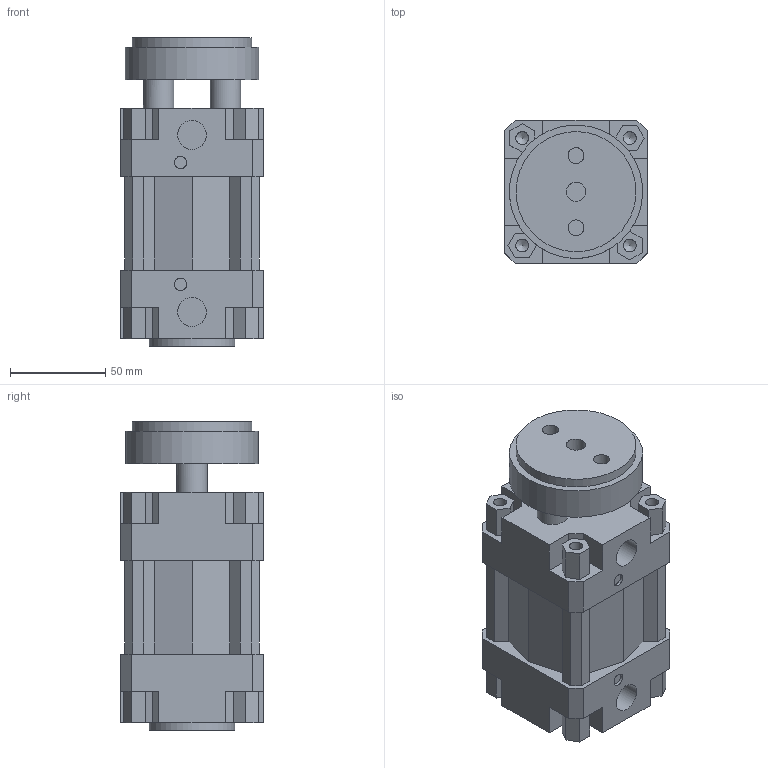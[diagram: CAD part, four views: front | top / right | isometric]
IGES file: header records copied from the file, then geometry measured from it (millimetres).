
Global section: file name: 132#_063_0000_01; native system: Autodesk Inventor 2014; preprocessor: unknown; author: A. Manieri; date: 20161006.155814; units: millimetre
Bounding box: 75 x 75 x 162 mm (x, y, z)
Volume: 664288.4 mm3; surface area: 112880 mm2
Topology: 2 solids, 2 shells, 180 faces, 491 edges, 335 vertices
Faces by surface type: bspline 180
